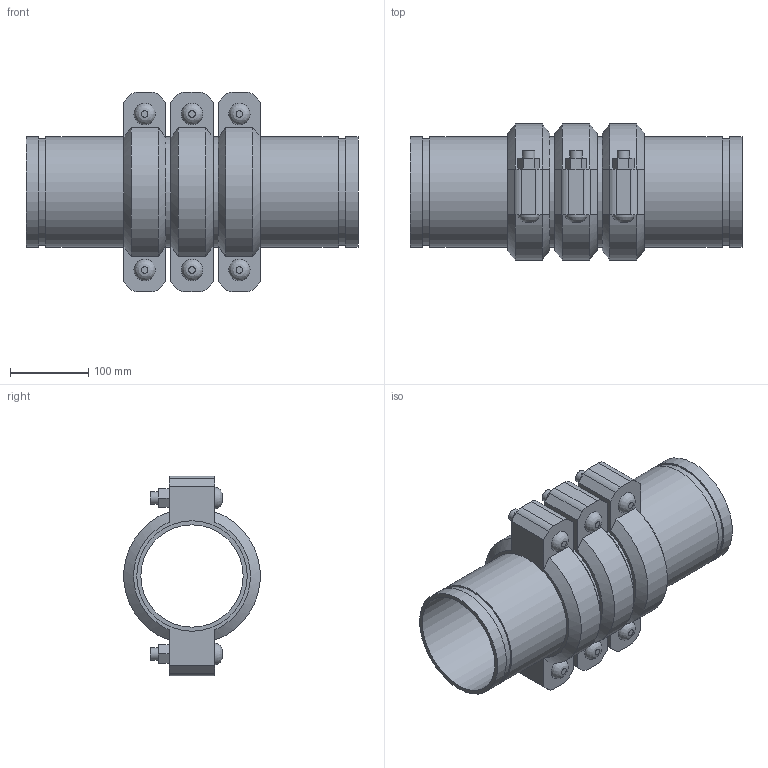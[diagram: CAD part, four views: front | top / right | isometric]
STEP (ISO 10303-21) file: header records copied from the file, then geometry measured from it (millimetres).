
FILE_DESCRIPTION(/* description */ ('VIC EXPANSION JOINT 3 COUPLINGS COMPRESSED STYLE 155 (OGS)','CAx-IF Rec.Pracs.---Representation and Presentation of Product Manufacturing Information (PMI)---4.0---2014-10-13'),/* implementation_level */ '2;1');
FILE_NAME(/* name */ 'C:\Users\kkamble\AppData\Roaming\Autodesk\ApplicationPlugins\Victaulic.Temp\A971\Victaulic_IPS_Expansion Joint_Compressed_3 Couplings_Style 155 (OGS)_5 (125).stp',/* time_stamp */ '2021-06-27T00:25:37+02:00',/* author */ ('kkamble'),/* organization */ ('Victaulic'),/* preprocessor_version */ 'ST-DEVELOPER v17.2',/* originating_system */ 'Autodesk Inventor 2019',/* authorisation */ '');
FILE_SCHEMA (('AP242_MANAGED_MODEL_BASED_3D_ENGINEERING_MIM_LF { 1 0 10303 442 1 1 4 }'));
Length unit declared in the file: inch
Products named in the file (4): 155-05.0; Nipple-05.0; Nipple-05.0_1; 075_3_Coup-05.0
Assembly tree (7 placements, depth 2):
  155-05.0
    Nipple-05.0  x2
    Nipple-05.0_1  x2
    075_3_Coup-05.0  x3
Bounding box: 424.94 x 174.16 x 255.78 mm (x, y, z)
Volume: 2871840.9 mm3; surface area: 698095.8 mm2
Topology: 7 solids, 13 shells, 219 faces, 519 edges, 366 vertices
Faces by surface type: plane 132, cylinder 69, cone 12, bspline 6
Full cylindrical faces by diameter (mm): 15.875 x12, 17.424 x6, 130.988 x4, 134.95 x3, 137.033 x8, 141.3 x18
Entity records: 2778 total; most frequent: CARTESIAN_POINT 491, DIRECTION 457, ORIENTED_EDGE 386, EDGE_CURVE 193, AXIS2_PLACEMENT_3D 182, VERTEX_POINT 138, EDGE_LOOP 107, LINE 93
